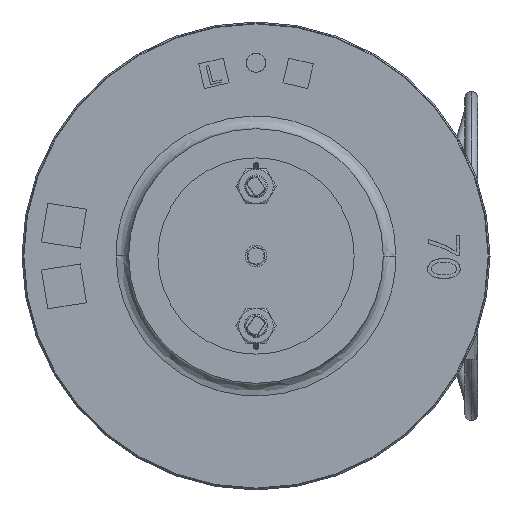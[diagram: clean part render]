
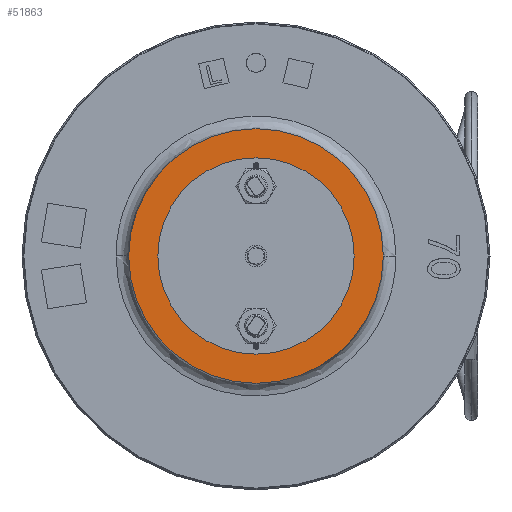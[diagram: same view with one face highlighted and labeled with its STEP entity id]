
A CAD part, left-side view. The second image highlights one B-rep face of the part: STEP entity #51863.
In plain terms, the highlighted planar face has unit normal (-1, 0, 0).
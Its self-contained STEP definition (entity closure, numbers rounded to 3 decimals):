
#318 = FACE_BOUND ( 'NONE', #23594, .T. ) ;
#4798 = DIRECTION ( 'NONE',  ( 1., 0., 0. ) ) ;
#9307 = CARTESIAN_POINT ( 'NONE',  ( -877.5, 341., 113. ) ) ;
#9739 = DIRECTION ( 'NONE',  ( 1., 0., 0. ) ) ;
#20943 = AXIS2_PLACEMENT_3D ( 'NONE', #81966, #4798, #43035 ) ;
#21786 = DIRECTION ( 'NONE',  ( 1., 0., 0. ) ) ;
#23594 = EDGE_LOOP ( 'NONE', ( #39283, #25913 ) ) ;
#25913 = ORIENTED_EDGE ( 'NONE', *, *, #28328, .F. ) ;
#28328 = EDGE_CURVE ( 'NONE', #100618, #34379, #34416, .T. ) ;
#34379 = VERTEX_POINT ( 'NONE', #95966 ) ;
#34416 = CIRCLE ( 'NONE', #60762, 155. ) ;
#39283 = ORIENTED_EDGE ( 'NONE', *, *, #113235, .F. ) ;
#43035 = DIRECTION ( 'NONE',  ( 0., -1., 0. ) ) ;
#43080 = CARTESIAN_POINT ( 'NONE',  ( -877.5, 140., 113. ) ) ;
#48016 = DIRECTION ( 'NONE',  ( 0., 1., 0. ) ) ;
#48646 = CARTESIAN_POINT ( 'NONE',  ( -877.5, 140., 113. ) ) ;
#51863 = ADVANCED_FACE ( 'NONE', ( #318, #86324 ), #114587, .F. ) ;
#52140 = AXIS2_PLACEMENT_3D ( 'NONE', #57261, #105013, #103743 ) ;
#52518 = DIRECTION ( 'NONE',  ( 0., -1., 0. ) ) ;
#55464 = CARTESIAN_POINT ( 'NONE',  ( -877.5, 140., 113. ) ) ;
#57035 = CIRCLE ( 'NONE', #20943, 201. ) ;
#57261 = CARTESIAN_POINT ( 'NONE',  ( -877.5, 140., 113. ) ) ;
#58119 = CIRCLE ( 'NONE', #52140, 155. ) ;
#60762 = AXIS2_PLACEMENT_3D ( 'NONE', #55464, #104453, #105090 ) ;
#64110 = VERTEX_POINT ( 'NONE', #9307 ) ;
#71696 = CARTESIAN_POINT ( 'NONE',  ( -877.5, -61., 113. ) ) ;
#79567 = CIRCLE ( 'NONE', #119654, 201. ) ;
#80567 = AXIS2_PLACEMENT_3D ( 'NONE', #48646, #9739, #48016 ) ;
#81966 = CARTESIAN_POINT ( 'NONE',  ( -877.5, 140., 113. ) ) ;
#82885 = EDGE_LOOP ( 'NONE', ( #100966, #83784 ) ) ;
#83784 = ORIENTED_EDGE ( 'NONE', *, *, #119814, .F. ) ;
#86324 = FACE_OUTER_BOUND ( 'NONE', #82885, .T. ) ;
#89800 = CARTESIAN_POINT ( 'NONE',  ( -877.5, -15., 113. ) ) ;
#95966 = CARTESIAN_POINT ( 'NONE',  ( -877.5, 295., 113. ) ) ;
#97349 = VERTEX_POINT ( 'NONE', #71696 ) ;
#100618 = VERTEX_POINT ( 'NONE', #89800 ) ;
#100966 = ORIENTED_EDGE ( 'NONE', *, *, #109751, .F. ) ;
#103743 = DIRECTION ( 'NONE',  ( 0., 1., 0. ) ) ;
#104453 = DIRECTION ( 'NONE',  ( -1., 0., 0. ) ) ;
#105013 = DIRECTION ( 'NONE',  ( -1., 0., 0. ) ) ;
#105090 = DIRECTION ( 'NONE',  ( 0., 1., 0. ) ) ;
#109751 = EDGE_CURVE ( 'NONE', #97349, #64110, #79567, .T. ) ;
#113235 = EDGE_CURVE ( 'NONE', #34379, #100618, #58119, .T. ) ;
#114587 = PLANE ( 'NONE',  #80567 ) ;
#119654 = AXIS2_PLACEMENT_3D ( 'NONE', #43080, #21786, #52518 ) ;
#119814 = EDGE_CURVE ( 'NONE', #64110, #97349, #57035, .T. ) ;
